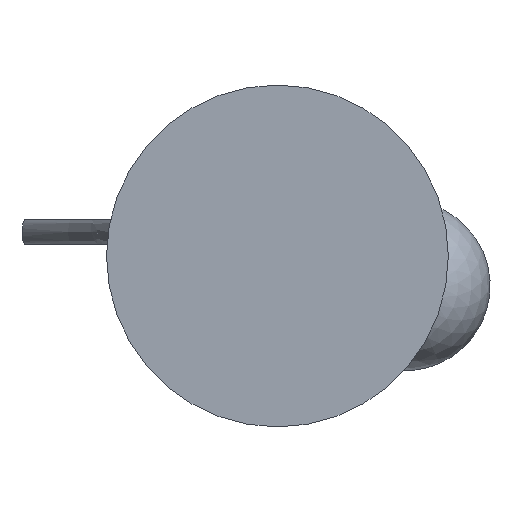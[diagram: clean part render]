
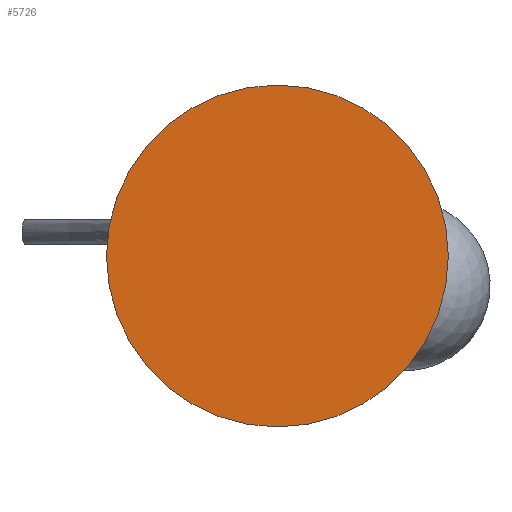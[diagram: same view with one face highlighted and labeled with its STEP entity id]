
A CAD part, front view. The second image highlights one B-rep face of the part: STEP entity #5726.
In plain terms, the highlighted planar face has unit normal (0, -1, 0).
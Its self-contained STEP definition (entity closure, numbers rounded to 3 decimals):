
#948 = CIRCLE ( 'NONE', #4266, 200. ) ;
#1603 = CARTESIAN_POINT ( 'NONE',  ( 0., -5., 0. ) ) ;
#1758 = FACE_OUTER_BOUND ( 'NONE', #7274, .T. ) ;
#1829 = AXIS2_PLACEMENT_3D ( 'NONE', #3150, #6233, #4436 ) ;
#1839 = DIRECTION ( 'NONE',  ( 0., -1., 0. ) ) ;
#1878 = PLANE ( 'NONE',  #3242 ) ;
#2154 = EDGE_CURVE ( 'NONE', #7469, #3965, #5282, .T. ) ;
#2839 = DIRECTION ( 'NONE',  ( 0., -1., 0. ) ) ;
#3022 = CARTESIAN_POINT ( 'NONE',  ( 200., -5., 0. ) ) ;
#3150 = CARTESIAN_POINT ( 'NONE',  ( 0., -5., 0. ) ) ;
#3242 = AXIS2_PLACEMENT_3D ( 'NONE', #4200, #1839, #6752 ) ;
#3440 = DIRECTION ( 'NONE',  ( 1., 0., 0. ) ) ;
#3965 = VERTEX_POINT ( 'NONE', #5080 ) ;
#4200 = CARTESIAN_POINT ( 'NONE',  ( 270.594, -5., -227.55 ) ) ;
#4266 = AXIS2_PLACEMENT_3D ( 'NONE', #1603, #2839, #3440 ) ;
#4436 = DIRECTION ( 'NONE',  ( 1., 0., 0. ) ) ;
#5080 = CARTESIAN_POINT ( 'NONE',  ( -200., -5., 0. ) ) ;
#5209 = ORIENTED_EDGE ( 'NONE', *, *, #2154, .T. ) ;
#5282 = CIRCLE ( 'NONE', #1829, 200. ) ;
#5726 = ADVANCED_FACE ( 'NONE', ( #1758 ), #1878, .T. ) ;
#6233 = DIRECTION ( 'NONE',  ( 0., -1., 0. ) ) ;
#6686 = EDGE_CURVE ( 'NONE', #3965, #7469, #948, .T. ) ;
#6752 = DIRECTION ( 'NONE',  ( -1., 0., 0. ) ) ;
#7274 = EDGE_LOOP ( 'NONE', ( #5209, #7788 ) ) ;
#7469 = VERTEX_POINT ( 'NONE', #3022 ) ;
#7788 = ORIENTED_EDGE ( 'NONE', *, *, #6686, .T. ) ;
